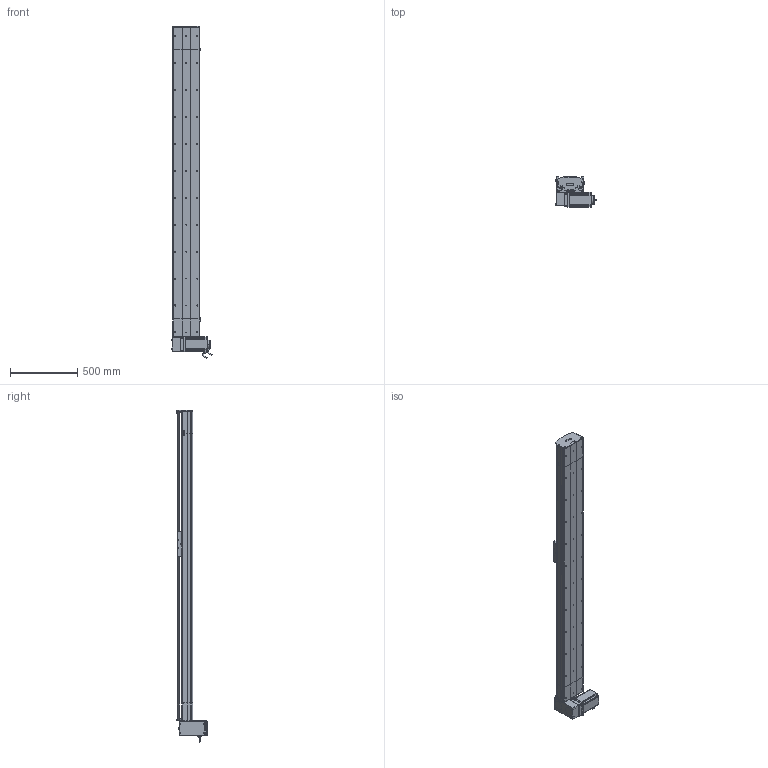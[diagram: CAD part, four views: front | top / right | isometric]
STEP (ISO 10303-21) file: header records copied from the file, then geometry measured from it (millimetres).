
FILE_DESCRIPTION (( 'STEP AP214' ), '1' );
FILE_NAME ('D20 TBH RU S2000.STEP', '2010-07-01T07:45:22', ( 'Conseil Régional Haute-Normandie' ), ( 'Conseil Régional Haute-Normandie' ), 'SwSTEP 2.0', 'SolidWorks 2010', '' );
FILE_SCHEMA (( 'AUTOMOTIVE_DESIGN' ));
Length unit declared in the file: millimetre
Products named in the file (40): corpl tail D20_Default; vis M8 L12_Default; tete d''axe poulie D20B; Couroie tail D20_Default; plaque de  bout tail D20_Default; couvercle tail D20_Default; vis M5 L8 90°_Default; poulie tail D20_Default; clavette; vis M5 L12_Default; Conecteur_Default; Conecteur2_Default; codeur 110BLDC170A-630x; corps 110BLDC170A-630x; avant 110BLDC170A-630x; Moteur motionking 110BLDC170A-640x; vis M5 L70_Default; Plaque racord D20LH_Default; couroie_Default; cache D20_Default; cache arbre D20_Default; Renvoi RU D20_Default; vis M5 L25_Default; vis M5 L5_Default; poulie head D20_Default; couvercle head D20_Default; plaque de  bout head D20B RU_Default; rail head D20; corpl head D20_Default; head RU_Default; rail tail D20; Chariot D20B; chariot D20B_Default; D20 TBH RU S2000; corp D20 S2000_Default; Course B L2000_Default; guide D20B; tail D20_Default; rail + couroie  D20 S2000; couvercle D20 S2000_Default
Assembly tree (71 placements, depth 4):
  D20 TBH RU S2000
    tail D20_Default
      vis M5 L25_Default  x2
      Couroie tail D20_Default
      tete d''axe poulie D20B
      vis M5 L12_Default  x4
      plaque de  bout tail D20_Default
      poulie tail D20_Default
      corpl tail D20_Default
      couvercle tail D20_Default
      vis M5 L8 90°_Default  x2
      rail tail D20
    head RU_Default
      vis M5 L5_Default  x4
      cache D20_Default  x2
      vis M5 L25_Default  x2
      vis M5 L12_Default  x10
      vis M8 L12_Default  x4
      plaque de  bout head D20B RU_Default
      couvercle head D20_Default
      vis M5 L70_Default  x4
      Renvoi RU D20_Default
      poulie head D20_Default
      rail head D20
      Moteur motionking 110BLDC170A-640x
        clavette
        Conecteur2_Default
        avant 110BLDC170A-630x
        corps 110BLDC170A-630x
        codeur 110BLDC170A-630x
        Conecteur_Default
      Plaque racord D20LH_Default
      cache arbre D20_Default
      couroie_Default
      corpl head D20_Default
    Course B L2000_Default
      rail + couroie  D20 S2000
      couvercle D20 S2000_Default
      corp D20 S2000_Default
    chariot D20B_Default
      Chariot D20B
      guide D20B  x2
      vis M5 L12_Default  x4
Bounding box: 304.2 x 223.2 x 2465 mm (x, y, z)
Volume: 20252800.8 mm3; surface area: 4884972.3 mm2
Topology: 95 solids, 95 shells, 2777 faces, 7047 edges, 4549 vertices
Faces by surface type: plane 1626, cylinder 827, bspline 136, cone 99, torus 89
Entity records: 88052 total; most frequent: CARTESIAN_POINT 28293, ORIENTED_EDGE 10750, DIRECTION 10148, EDGE_CURVE 5375, VERTEX_POINT 3535, VECTOR 3472, LINE 3472, AXIS2_PLACEMENT_3D 3338
